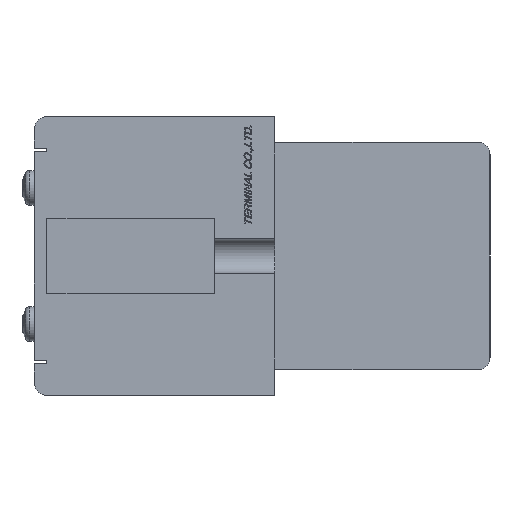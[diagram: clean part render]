
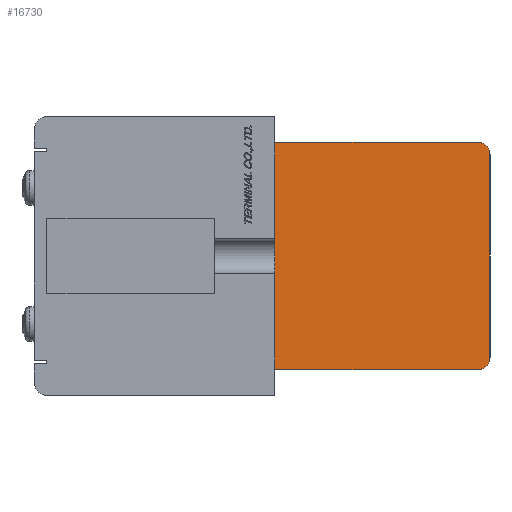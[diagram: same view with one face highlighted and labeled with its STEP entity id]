
A CAD part, left-side view. The second image highlights one B-rep face of the part: STEP entity #16730.
In plain terms, the highlighted planar face has unit normal (-1, 0, 0).
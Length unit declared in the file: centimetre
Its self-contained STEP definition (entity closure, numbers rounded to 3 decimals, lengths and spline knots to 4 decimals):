
#626=CIRCLE('',#28472,0.2);
#627=CIRCLE('',#28475,0.2);
#1542=VERTEX_POINT('',#23819);
#1543=VERTEX_POINT('',#23820);
#1544=VERTEX_POINT('',#23825);
#1545=VERTEX_POINT('',#23829);
#1546=VERTEX_POINT('',#23833);
#1547=VERTEX_POINT('',#23834);
#3369=VECTOR('',#18830,1.);
#3372=VECTOR('',#18838,1.);
#3373=VECTOR('',#18839,1.);
#3374=VECTOR('',#18840,1.);
#5054=LINE('',#23824,#3369);
#5057=LINE('',#23832,#3372);
#5058=LINE('',#23835,#3373);
#5059=LINE('',#23836,#3374);
#6855=EDGE_CURVE('',#1542,#1543,#626,.T.);
#6858=EDGE_CURVE('',#1543,#1544,#5054,.T.);
#6860=EDGE_CURVE('',#1544,#1545,#627,.T.);
#6862=EDGE_CURVE('',#1546,#1547,#5057,.T.);
#6863=EDGE_CURVE('',#1545,#1546,#5058,.T.);
#6864=EDGE_CURVE('',#1547,#1542,#5059,.T.);
#9890=ORIENTED_EDGE('',*,*,#6862,.F.);
#9891=ORIENTED_EDGE('',*,*,#6863,.F.);
#9892=ORIENTED_EDGE('',*,*,#6860,.F.);
#9893=ORIENTED_EDGE('',*,*,#6858,.F.);
#9894=ORIENTED_EDGE('',*,*,#6855,.F.);
#9895=ORIENTED_EDGE('',*,*,#6864,.F.);
#14406=EDGE_LOOP('',(#9890,#9891,#9892,#9893,#9894,#9895));
#15571=FACE_BOUND('',#14406,.T.);
#16730=ADVANCED_FACE('',(#15571),#17656,.F.);
#17656=PLANE('',#28476);
#18825=DIRECTION('',(1.,0.,0.));
#18826=DIRECTION('',(0.,0.,-0.2));
#18830=DIRECTION('',(0.,0.,-1.));
#18834=DIRECTION('',(1.,0.,0.));
#18835=DIRECTION('',(0.,0.,-0.2));
#18837=DIRECTION('',(1.,0.,0.));
#18838=DIRECTION('',(0.,0.,1.));
#18839=DIRECTION('',(0.,1.,0.));
#18840=DIRECTION('',(0.,-1.,0.));
#23818=CARTESIAN_POINT('',(-5.1,-3.2,1.6));
#23819=CARTESIAN_POINT('',(-5.1,-3.2,1.8));
#23820=CARTESIAN_POINT('',(-5.1,-3.4,1.6));
#23824=CARTESIAN_POINT('',(-5.1,-3.4,-1.6));
#23825=CARTESIAN_POINT('',(-5.1,-3.4,-1.6));
#23828=CARTESIAN_POINT('',(-5.1,-3.2,-1.6));
#23829=CARTESIAN_POINT('',(-5.1,-3.2,-1.8));
#23831=CARTESIAN_POINT('',(-5.1,-1.6784,0.));
#23832=CARTESIAN_POINT('',(-5.1,0.,1.8));
#23833=CARTESIAN_POINT('',(-5.1,0.,-1.8));
#23834=CARTESIAN_POINT('',(-5.1,0.,1.8));
#23835=CARTESIAN_POINT('',(-5.1,0.,-1.8));
#23836=CARTESIAN_POINT('',(-5.1,-3.2,1.8));
#28472=AXIS2_PLACEMENT_3D('',#23818,#18825,#18826);
#28475=AXIS2_PLACEMENT_3D('',#23828,#18834,#18835);
#28476=AXIS2_PLACEMENT_3D('',#23831,#18837,$);
